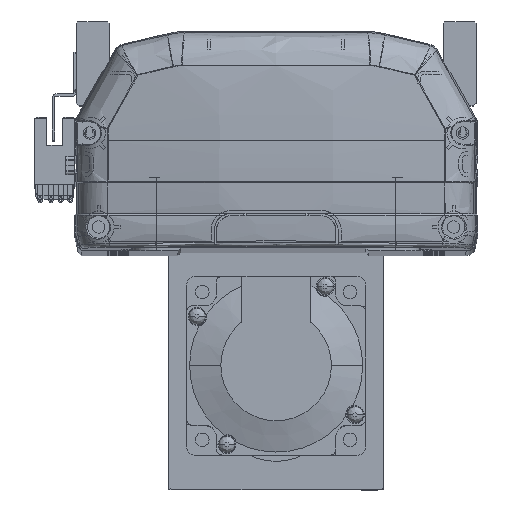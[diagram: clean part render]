
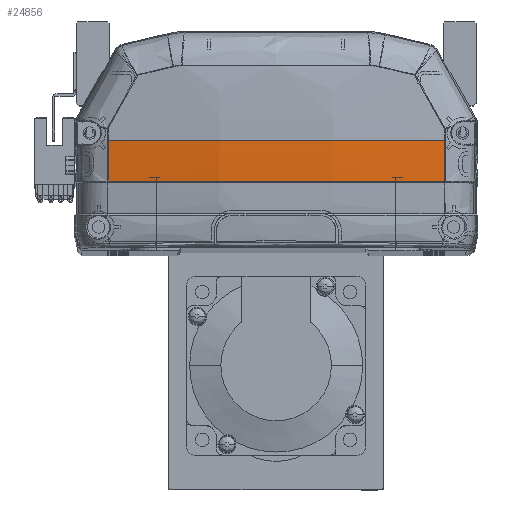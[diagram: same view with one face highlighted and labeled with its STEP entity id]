
A CAD part, top view. The second image highlights one B-rep face of the part: STEP entity #24856.
In plain terms, the highlighted free-form (B-spline) face has degree [3, 3] with [4, 4] control points.
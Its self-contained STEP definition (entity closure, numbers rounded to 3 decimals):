
#1206 = CARTESIAN_POINT ( 'NONE',  ( -56.661, 22.225, -4.818 ) ) ;
#1762 = CARTESIAN_POINT ( 'NONE',  ( 57.335, 31.38, -5.042 ) ) ;
#2588 = ORIENTED_EDGE ( 'NONE', *, *, #26952, .F. ) ;
#2945 = CARTESIAN_POINT ( 'NONE',  ( 6452.613, 35.969, -5.158 ) ) ;
#3274 = VERTEX_POINT ( 'NONE', #50104 ) ;
#4070 = DIRECTION ( 'NONE',  ( 0., 0., -1. ) ) ;
#4608 = CARTESIAN_POINT ( 'NONE',  ( -56.661, 22.225, -4.818 ) ) ;
#5705 = B_SPLINE_CURVE_WITH_KNOTS ( 'NONE', 3,
 ( #15611, #46171, #33560, #10770, #37229, #46557, #46942, #15033, #28885, #55268, #42468, #46366, #19917 ),
 .UNSPECIFIED., .F., .F.,
 ( 4, 2, 2, 1, 2, 2, 4 ),
 ( 0., 0.25, 0.375, 0.438, 0.469, 0.5, 1. ),
 .UNSPECIFIED. ) ;
#6781 = VERTEX_POINT ( 'NONE', #7468 ) ;
#7468 = CARTESIAN_POINT ( 'NONE',  ( 56.647, 36., -5.158 ) ) ;
#8781 = CIRCLE ( 'NONE', #17183, 340.733 ) ;
#10227 = VERTEX_POINT ( 'NONE', #1206 ) ;
#10416 = ORIENTED_EDGE ( 'NONE', *, *, #46551, .F. ) ;
#10770 = CARTESIAN_POINT ( 'NONE',  ( 23.877, 22.225, -8.763 ) ) ;
#10873 = CARTESIAN_POINT ( 'NONE',  ( 19.295, 31.274, -11.535 ) ) ;
#11633 = CARTESIAN_POINT ( 'NONE',  ( -57.335, 22.148, -4.7 ) ) ;
#13705 = CARTESIAN_POINT ( 'NONE',  ( 56.661, 22.225, -4.818 ) ) ;
#15033 = CARTESIAN_POINT ( 'NONE',  ( 4.761, 22.225, -9.537 ) ) ;
#15144 = CARTESIAN_POINT ( 'NONE',  ( -19.295, 21.828, -11.186 ) ) ;
#15345 = CARTESIAN_POINT ( 'NONE',  ( 57.335, 36., -5.042 ) ) ;
#15442 = EDGE_LOOP ( 'NONE', ( #2588, #10416, #25011, #20608, #30752 ) ) ;
#15611 = CARTESIAN_POINT ( 'NONE',  ( 56.661, 22.225, -4.818 ) ) ;
#17183 = AXIS2_PLACEMENT_3D ( 'NONE', #39458, #17859, #4070 ) ;
#17859 = DIRECTION ( 'NONE',  ( 0., 1., 0. ) ) ;
#19242 = CARTESIAN_POINT ( 'NONE',  ( 57.335, 22.148, -4.7 ) ) ;
#19836 = CARTESIAN_POINT ( 'NONE',  ( -19.295, 31.274, -11.535 ) ) ;
#19917 = CARTESIAN_POINT ( 'NONE',  ( -56.661, 22.225, -4.818 ) ) ;
#20043 = CARTESIAN_POINT ( 'NONE',  ( 56.647, 35.969, -5.158 ) ) ;
#20418 = CARTESIAN_POINT ( 'NONE',  ( -57.335, 31.38, -5.042 ) ) ;
#20608 = ORIENTED_EDGE ( 'NONE', *, *, #27654, .T. ) ;
#20792 = CARTESIAN_POINT ( 'NONE',  ( -57.335, 36., -5.042 ) ) ;
#21247 = AXIS2_PLACEMENT_3D ( 'NONE', #2945, #30373, #56559 ) ;
#22352 = CARTESIAN_POINT ( 'NONE',  ( -56.652, 26.814, -5.045 ) ) ;
#23548 = CARTESIAN_POINT ( 'NONE',  ( 19.295, 26.549, -11.419 ) ) ;
#23748 = CARTESIAN_POINT ( 'NONE',  ( -19.295, 36., -11.535 ) ) ;
#24146 = EDGE_CURVE ( 'NONE', #3274, #10227, #49648, .T. ) ;
#24605 = EDGE_CURVE ( 'NONE', #39206, #56851, #31422, .T. ) ;
#24856 = ADVANCED_FACE ( 'NONE', ( #47910 ), #52617, .T. ) ;
#25011 = ORIENTED_EDGE ( 'NONE', *, *, #24605, .F. ) ;
#25976 = CARTESIAN_POINT ( 'NONE',  ( 56.647, 31.387, -5.158 ) ) ;
#26952 = EDGE_CURVE ( 'NONE', #6781, #3274, #8781, .T. ) ;
#27029 = CIRCLE ( 'NONE', #21247, 6395.966 ) ;
#27654 = EDGE_CURVE ( 'NONE', #39206, #10227, #5705, .T. ) ;
#28013 = CARTESIAN_POINT ( 'NONE',  ( -19.295, 26.549, -11.419 ) ) ;
#28885 = CARTESIAN_POINT ( 'NONE',  ( 2.357, 22.225, -9.562 ) ) ;
#30373 = DIRECTION ( 'NONE',  ( 0., 0., -1. ) ) ;
#30752 = ORIENTED_EDGE ( 'NONE', *, *, #24146, .F. ) ;
#31422 = B_SPLINE_CURVE_WITH_KNOTS ( 'NONE', 3,
 ( #43271, #47939, #25976, #52752 ),
 .UNSPECIFIED., .F., .F.,
 ( 4, 4 ),
 ( 0., 1. ),
 .UNSPECIFIED. ) ;
#32887 = CARTESIAN_POINT ( 'NONE',  ( 19.295, 21.828, -11.186 ) ) ;
#33560 = CARTESIAN_POINT ( 'NONE',  ( 38.071, 22.225, -7.566 ) ) ;
#37229 = CARTESIAN_POINT ( 'NONE',  ( 19.121, 22.225, -9.064 ) ) ;
#38287 = CARTESIAN_POINT ( 'NONE',  ( -57.335, 26.762, -4.928 ) ) ;
#39206 = VERTEX_POINT ( 'NONE', #13705 ) ;
#39458 = CARTESIAN_POINT ( 'NONE',  ( 0., 36., 330.833 ) ) ;
#40215 = CARTESIAN_POINT ( 'NONE',  ( -56.647, 31.405, -5.158 ) ) ;
#42468 = CARTESIAN_POINT ( 'NONE',  ( -19.28, 22.225, -9.565 ) ) ;
#43271 = CARTESIAN_POINT ( 'NONE',  ( 56.661, 22.225, -4.818 ) ) ;
#46171 = CARTESIAN_POINT ( 'NONE',  ( 47.432, 22.225, -6.377 ) ) ;
#46366 = CARTESIAN_POINT ( 'NONE',  ( -38.235, 22.225, -7.93 ) ) ;
#46473 = CARTESIAN_POINT ( 'NONE',  ( 19.295, 36., -11.535 ) ) ;
#46551 = EDGE_CURVE ( 'NONE', #56851, #6781, #27029, .T. ) ;
#46557 = CARTESIAN_POINT ( 'NONE',  ( 11.954, 22.225, -9.367 ) ) ;
#46942 = CARTESIAN_POINT ( 'NONE',  ( 8.363, 22.225, -9.48 ) ) ;
#47910 = FACE_OUTER_BOUND ( 'NONE', #15442, .T. ) ;
#47939 = CARTESIAN_POINT ( 'NONE',  ( 56.652, 26.806, -5.044 ) ) ;
#49648 = B_SPLINE_CURVE_WITH_KNOTS ( 'NONE', 3,
 ( #53013, #40215, #22352, #4608 ),
 .UNSPECIFIED., .F., .F.,
 ( 4, 4 ),
 ( 0., 1. ),
 .UNSPECIFIED. ) ;
#50104 = CARTESIAN_POINT ( 'NONE',  ( -56.647, 36., -5.158 ) ) ;
#50344 = CARTESIAN_POINT ( 'NONE',  ( 57.335, 26.762, -4.928 ) ) ;
#52617 =( BOUNDED_SURFACE ( )  B_SPLINE_SURFACE ( 3, 3, ( 
 ( #19242, #50344, #1762, #15345 ),
 ( #32887, #23548, #10873, #46473 ),
 ( #15144, #28013, #19836, #23748 ),
 ( #11633, #38287, #20418, #20792 ) ),
 .UNSPECIFIED., .F., .F., .F. ) 
 B_SPLINE_SURFACE_WITH_KNOTS ( ( 4, 4 ),
 ( 4, 4 ),
 ( 0., 1. ),
 ( 0., 1. ),
 .UNSPECIFIED. ) 
 GEOMETRIC_REPRESENTATION_ITEM ( )  RATIONAL_B_SPLINE_SURFACE ( (
 ( 1., 1., 1., 1.),
 ( 0.99, 0.99, 0.99, 0.99),
 ( 0.99, 0.99, 0.99, 0.99),
 ( 1., 1., 1., 1.) ) ) 
 REPRESENTATION_ITEM ( '' )  SURFACE ( )  );
#52752 = CARTESIAN_POINT ( 'NONE',  ( 56.647, 35.969, -5.158 ) ) ;
#53013 = CARTESIAN_POINT ( 'NONE',  ( -56.647, 36., -5.158 ) ) ;
#55268 = CARTESIAN_POINT ( 'NONE',  ( 1.152, 22.225, -9.568 ) ) ;
#56559 = DIRECTION ( 'NONE',  ( -1., 0., 0. ) ) ;
#56851 = VERTEX_POINT ( 'NONE', #20043 ) ;
